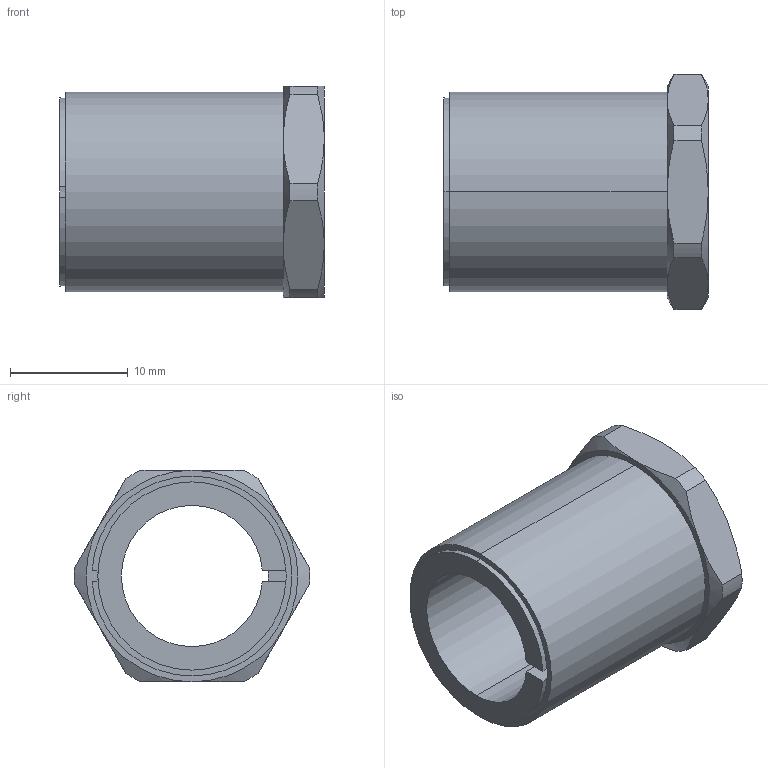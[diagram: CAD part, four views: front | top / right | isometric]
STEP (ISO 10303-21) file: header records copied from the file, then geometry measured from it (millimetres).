
FILE_DESCRIPTION (( 'STEP AP203' ), '1' );
FILE_NAME ('KBS 57 - 12 x 17.STEP', '2015-07-05T18:32:56', ( '' ), ( '' ), 'SwSTEP 2.0', 'SolidWorks 2010', '' );
FILE_SCHEMA (( 'CONFIG_CONTROL_DESIGN' ));
Length unit declared in the file: millimetre
Products named in the file (1): KBS 57 - 12 x 17
Bounding box: 22.5 x 19.99 x 18 mm (x, y, z)
Volume: 2657.3 mm3; surface area: 2491 mm2
Topology: 1 solids, 1 shells, 47 faces, 118 edges, 74 vertices
Faces by surface type: cylinder 16, plane 16, cone 15
Entity records: 1589 total; most frequent: CARTESIAN_POINT 388, DIRECTION 240, ORIENTED_EDGE 236, EDGE_CURVE 118, AXIS2_PLACEMENT_3D 100, VERTEX_POINT 74, CIRCLE 52, EDGE_LOOP 50
